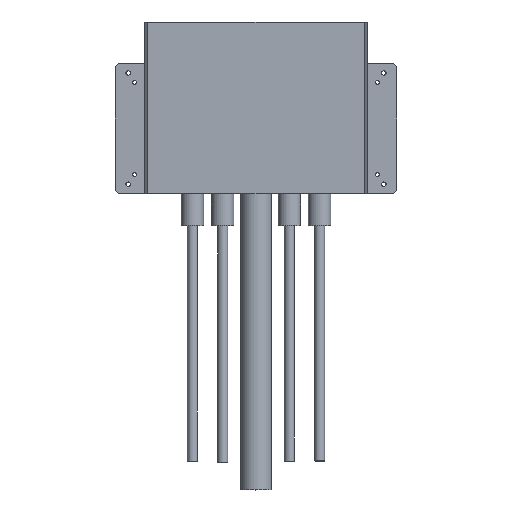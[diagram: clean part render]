
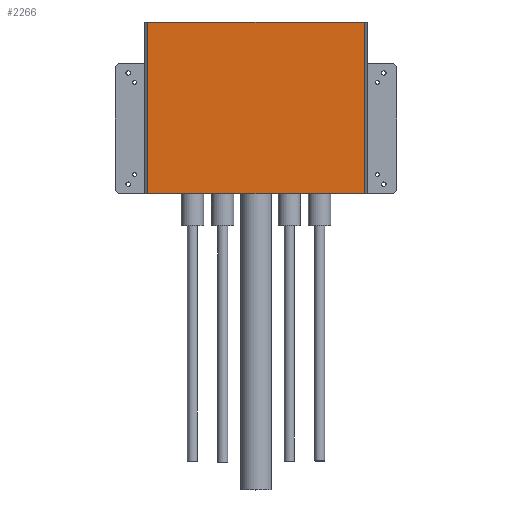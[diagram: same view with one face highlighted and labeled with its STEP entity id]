
A CAD part, top view. The second image highlights one B-rep face of the part: STEP entity #2266.
In plain terms, the highlighted planar face has unit normal (0, 0, 1) as drawn and (-1, 0, 0) by its records, which use the part's own axes.
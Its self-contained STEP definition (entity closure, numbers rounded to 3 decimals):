
#119=LINE('',#3463,#321);
#120=LINE('',#3466,#322);
#123=LINE('',#3482,#325);
#124=LINE('',#3483,#326);
#321=VECTOR('',#2884,10.);
#322=VECTOR('',#2887,10.);
#325=VECTOR('',#2902,10.);
#326=VECTOR('',#2903,10.);
#548=PLANE('',#2597);
#732=FACE_OUTER_BOUND('',#915,.T.);
#915=EDGE_LOOP('',(#1727,#1728,#1729,#1730));
#1155=VERTEX_POINT('',#3457);
#1157=VERTEX_POINT('',#3461);
#1158=VERTEX_POINT('',#3465);
#1165=VERTEX_POINT('',#3481);
#1377=EDGE_CURVE('',#1155,#1157,#119,.T.);
#1378=EDGE_CURVE('',#1158,#1155,#120,.T.);
#1386=EDGE_CURVE('',#1157,#1165,#123,.T.);
#1387=EDGE_CURVE('',#1165,#1158,#124,.T.);
#1727=ORIENTED_EDGE('',*,*,#1377,.T.);
#1728=ORIENTED_EDGE('',*,*,#1386,.T.);
#1729=ORIENTED_EDGE('',*,*,#1387,.T.);
#1730=ORIENTED_EDGE('',*,*,#1378,.T.);
#2266=ADVANCED_FACE('',(#732),#548,.F.);
#2597=AXIS2_PLACEMENT_3D('',#3480,#2900,#2901);
#2884=DIRECTION('',(0.,1.,0.));
#2887=DIRECTION('',(0.,0.,1.));
#2900=DIRECTION('center_axis',(1.,0.,0.));
#2901=DIRECTION('ref_axis',(0.,0.,-1.));
#2902=DIRECTION('',(0.,0.,-1.));
#2903=DIRECTION('',(0.,-1.,0.));
#3457=CARTESIAN_POINT('',(0.,0.,-5.));
#3461=CARTESIAN_POINT('',(0.,270.,-5.));
#3463=CARTESIAN_POINT('',(0.,202.5,-5.));
#3465=CARTESIAN_POINT('',(0.,0.,-345.));
#3466=CARTESIAN_POINT('',(0.,0.,-350.));
#3480=CARTESIAN_POINT('Origin',(0.,135.,-175.));
#3481=CARTESIAN_POINT('',(0.,270.,-345.));
#3482=CARTESIAN_POINT('',(0.,270.,0.));
#3483=CARTESIAN_POINT('',(0.,202.5,-345.));
